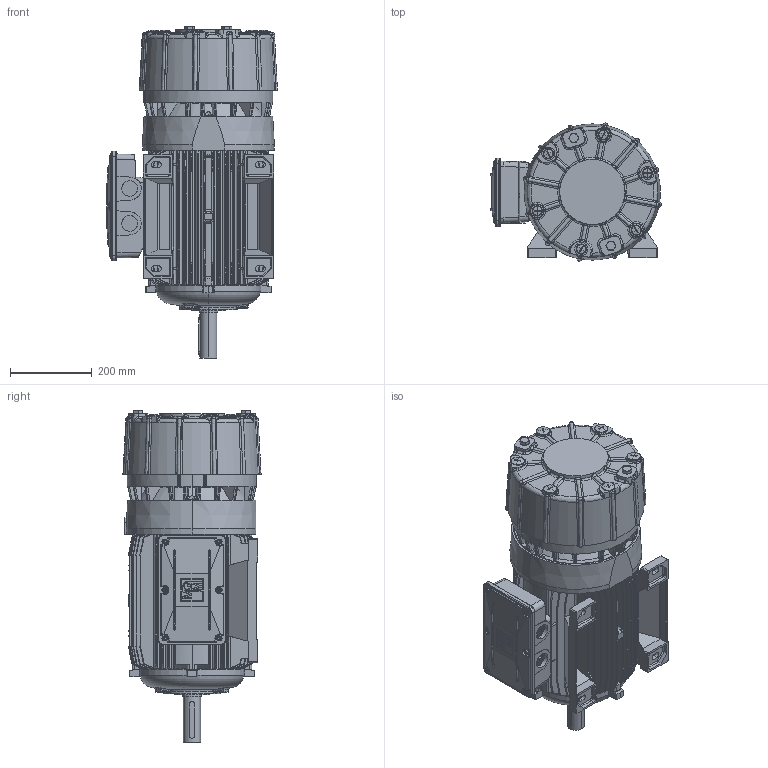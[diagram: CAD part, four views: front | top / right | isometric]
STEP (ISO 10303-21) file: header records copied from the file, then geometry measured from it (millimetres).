
FILE_DESCRIPTION (( 'STEP AP214' ), '1' );
FILE_NAME ('BAH 160 L B3.STEP', '2024-09-30T06:29:40', ( '' ), ( '' ), 'SwSTEP 2.0', 'SolidWorks 2023', '' );
FILE_SCHEMA (( 'AUTOMOTIVE_DESIGN' ));
Length unit declared in the file: millimetre
Products named in the file (16): Tappo M25x1,5; Carcassa 160 L B3; Guarnizione Basetta BA 160-180 - 200 - D6BB0000; Guarnizione Coperchio Sc. Mor. BA 160-180-200 - D6BA0100; BAH 160 L B3; Albero BA 160 L; Scudo Lato Comando B3 160 - D6AB0094; Vite Testa Bombata M6x20; Scatola Morsettiera Doppia BA 160 - 180 - 200 - Completa; Convogliatore con pista di attrito BAH 160 P2; Coperchio Scatola Morsettiera Doppia BA 160 - 180 - 200 - D6A60099; Cuffia BAH 160 - D6GQ0117; Vite a Testa Esagonale M14x30; Chiavetta 160; Scatola morsettiera 160; Scudo Lato Freno BA 160 P1 - D6A90399
Assembly tree (26 placements, depth 3):
  BAH 160 L B3
    Carcassa 160 L B3
    Albero BA 160 L
    Scudo Lato Freno BA 160 P1 - D6A90399
    Scudo Lato Comando B3 160 - D6AB0094
    Chiavetta 160
    Convogliatore con pista di attrito BAH 160 P2
    Scatola Morsettiera Doppia BA 160 - 180 - 200 - Completa
      Scatola morsettiera 160
      Coperchio Scatola Morsettiera Doppia BA 160 - 180 - 200 - D6A60099
      Guarnizione Coperchio Sc. Mor. BA 160-180-200 - D6BA0100
      Vite Testa Bombata M6x20  x6
      Guarnizione Basetta BA 160-180 - 200 - D6BB0000
    Cuffia BAH 160 - D6GQ0117
    Tappo M25x1,5  x6
    Vite a Testa Esagonale M14x30  x2
Bounding box: 417.01 x 337.04 x 810.3 mm (x, y, z)
Volume: 12076917.6 mm3; surface area: 3422831.4 mm2
Topology: 25 solids, 25 shells, 4543 faces, 12155 edges, 7515 vertices
Faces by surface type: cylinder 1420, bspline 1209, plane 1054, torus 422, cone 376, sphere 62
Entity records: 255531 total; most frequent: CARTESIAN_POINT 163612, ORIENTED_EDGE 21400, DIRECTION 15097, EDGE_CURVE 10700, VERTEX_POINT 6671, AXIS2_PLACEMENT_3D 5924, EDGE_LOOP 4339, ADVANCED_FACE 4079
